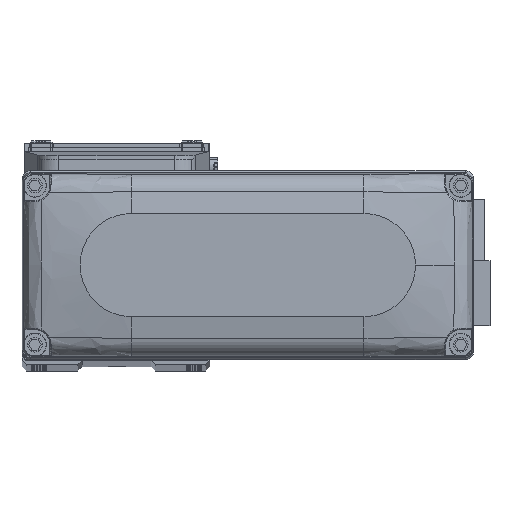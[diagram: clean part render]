
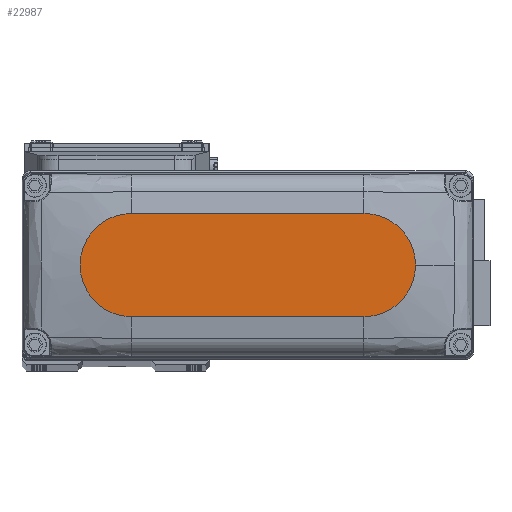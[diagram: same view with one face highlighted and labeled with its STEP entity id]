
A CAD part, top view. The second image highlights one B-rep face of the part: STEP entity #22987.
In plain terms, the highlighted planar face has unit normal (0, 0, 1).
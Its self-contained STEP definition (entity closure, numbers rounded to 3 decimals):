
#218 = ORIENTED_EDGE ( 'NONE', *, *, #23159, .T. ) ;
#311 = CARTESIAN_POINT ( 'NONE',  ( 27., 0., 25. ) ) ;
#2074 = EDGE_CURVE ( 'NONE', #16136, #26923, #20396, .T. ) ;
#2157 = DIRECTION ( 'NONE',  ( 0., 0., 1. ) ) ;
#2435 = CARTESIAN_POINT ( 'NONE',  ( 39., 0., 25. ) ) ;
#3344 = DIRECTION ( 'NONE',  ( 1., 0., 0. ) ) ;
#3475 = EDGE_CURVE ( 'NONE', #12164, #38658, #33522, .T. ) ;
#5126 = DIRECTION ( 'NONE',  ( 1., 0., 0. ) ) ;
#5200 = FACE_OUTER_BOUND ( 'NONE', #24304, .T. ) ;
#5972 = CARTESIAN_POINT ( 'NONE',  ( -27., 12., 25. ) ) ;
#6122 = VERTEX_POINT ( 'NONE', #2435 ) ;
#7715 = CARTESIAN_POINT ( 'NONE',  ( -27., 0., 25. ) ) ;
#9352 = ORIENTED_EDGE ( 'NONE', *, *, #2074, .T. ) ;
#9414 = AXIS2_PLACEMENT_3D ( 'NONE', #18664, #30929, #3344 ) ;
#10304 = VECTOR ( 'NONE', #18231, 1000. ) ;
#10561 = EDGE_CURVE ( 'NONE', #26923, #6122, #27979, .T. ) ;
#12164 = VERTEX_POINT ( 'NONE', #13558 ) ;
#12609 = DIRECTION ( 'NONE',  ( 0., 0., 1. ) ) ;
#13113 = CARTESIAN_POINT ( 'NONE',  ( -27., -12., 25. ) ) ;
#13389 = VECTOR ( 'NONE', #5126, 1000. ) ;
#13558 = CARTESIAN_POINT ( 'NONE',  ( 27., 12., 25. ) ) ;
#13567 = AXIS2_PLACEMENT_3D ( 'NONE', #7715, #19967, #32248 ) ;
#14468 = DIRECTION ( 'NONE',  ( 1., 0., 0. ) ) ;
#16136 = VERTEX_POINT ( 'NONE', #13113 ) ;
#16831 = CARTESIAN_POINT ( 'NONE',  ( 27., -12., 25. ) ) ;
#17465 = PLANE ( 'NONE',  #22240 ) ;
#17929 = ORIENTED_EDGE ( 'NONE', *, *, #10561, .T. ) ;
#18110 = ORIENTED_EDGE ( 'NONE', *, *, #39085, .T. ) ;
#18231 = DIRECTION ( 'NONE',  ( -1., 0., 0. ) ) ;
#18664 = CARTESIAN_POINT ( 'NONE',  ( 27., 0., 25. ) ) ;
#19967 = DIRECTION ( 'NONE',  ( 0., 0., 1. ) ) ;
#20396 = LINE ( 'NONE', #32677, #13389 ) ;
#22240 = AXIS2_PLACEMENT_3D ( 'NONE', #29733, #2157, #14468 ) ;
#22987 = ADVANCED_FACE ( 'NONE', ( #5200 ), #17465, .T. ) ;
#23159 = EDGE_CURVE ( 'NONE', #6122, #12164, #26743, .T. ) ;
#24304 = EDGE_LOOP ( 'NONE', ( #34799, #18110, #9352, #17929, #218 ) ) ;
#24873 = DIRECTION ( 'NONE',  ( 1., 0., 0. ) ) ;
#26743 = CIRCLE ( 'NONE', #9414, 12. ) ;
#26923 = VERTEX_POINT ( 'NONE', #16831 ) ;
#27979 = CIRCLE ( 'NONE', #33124, 12. ) ;
#29733 = CARTESIAN_POINT ( 'NONE',  ( 0., 0., 25. ) ) ;
#30881 = CIRCLE ( 'NONE', #13567, 12. ) ;
#30929 = DIRECTION ( 'NONE',  ( 0., 0., 1. ) ) ;
#32248 = DIRECTION ( 'NONE',  ( 1., 0., 0. ) ) ;
#32677 = CARTESIAN_POINT ( 'NONE',  ( -27., -12., 25. ) ) ;
#33124 = AXIS2_PLACEMENT_3D ( 'NONE', #311, #12609, #24873 ) ;
#33522 = LINE ( 'NONE', #5972, #10304 ) ;
#34799 = ORIENTED_EDGE ( 'NONE', *, *, #3475, .T. ) ;
#37750 = CARTESIAN_POINT ( 'NONE',  ( -27., 12., 25. ) ) ;
#38658 = VERTEX_POINT ( 'NONE', #37750 ) ;
#39085 = EDGE_CURVE ( 'NONE', #38658, #16136, #30881, .T. ) ;
